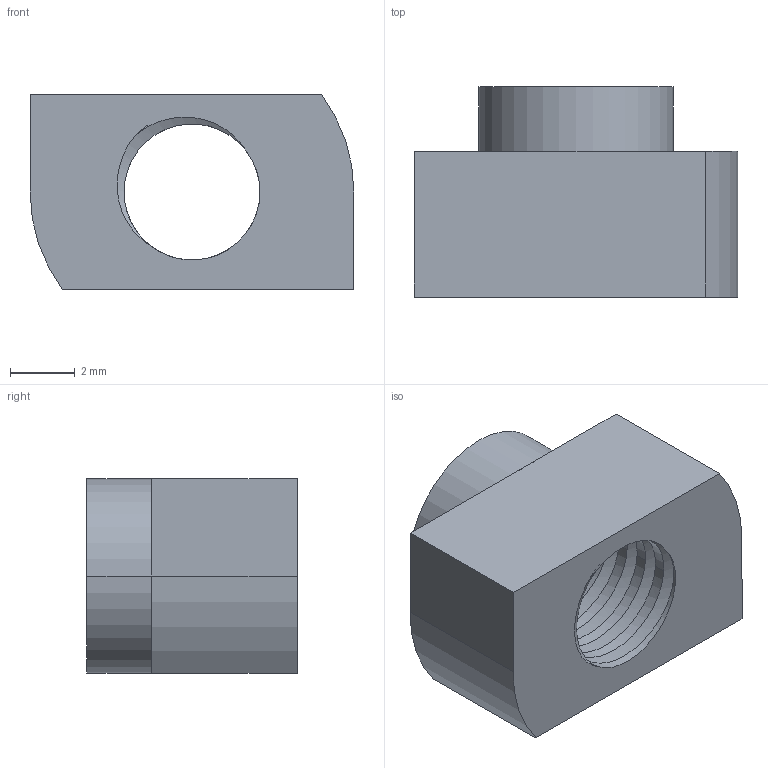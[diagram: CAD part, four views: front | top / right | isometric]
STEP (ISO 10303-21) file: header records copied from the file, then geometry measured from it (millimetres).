
FILE_DESCRIPTION (( 'STEP AP203' ), '1' );
FILE_NAME ('121-CE-TN-30G.STEP', '2015-07-09T08:55:04', ( '' ), ( '' ), 'SwSTEP 2.0', 'SolidWorks 2013', '' );
FILE_SCHEMA (( 'CONFIG_CONTROL_DESIGN' ));
Length unit declared in the file: millimetre
Products named in the file (1): 121-CE-TN-30G
Bounding box: 10 x 6.5 x 6 mm (x, y, z)
Volume: 218.6 mm3; surface area: 401.2 mm2
Topology: 1 solids, 1 shells, 32 faces, 88 edges, 58 vertices
Faces by surface type: cylinder 22, plane 8, bspline 2
Entity records: 2770 total; most frequent: CARTESIAN_POINT 1983, ORIENTED_EDGE 176, DIRECTION 123, EDGE_CURVE 88, VERTEX_POINT 58, AXIS2_PLACEMENT_3D 44, LINE 35, VECTOR 35
